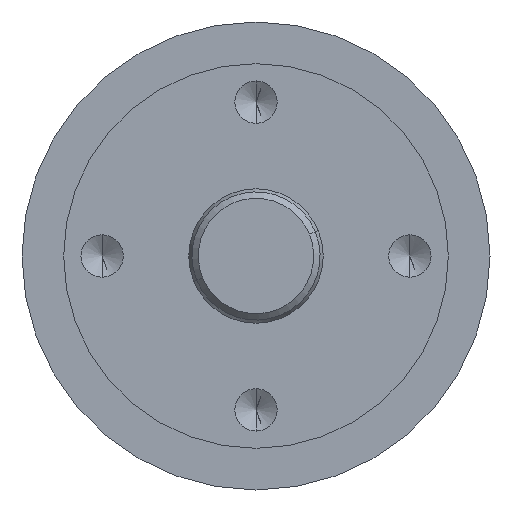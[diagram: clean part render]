
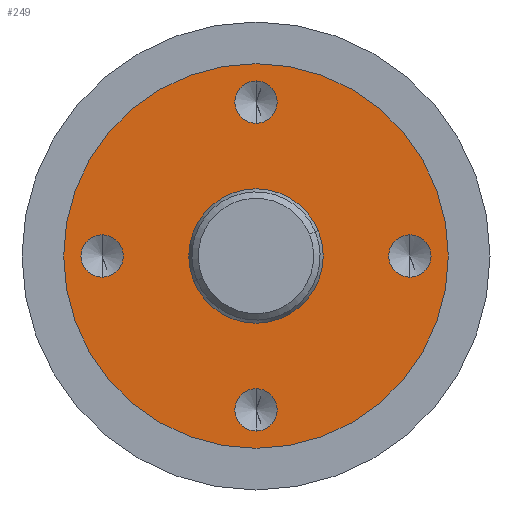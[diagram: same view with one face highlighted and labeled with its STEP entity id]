
A CAD part, left-side view. The second image highlights one B-rep face of the part: STEP entity #249.
In plain terms, the highlighted planar face has unit normal (-1, 0, 0).
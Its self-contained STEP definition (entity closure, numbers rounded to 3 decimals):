
#16 = EDGE_CURVE ( 'NONE', #17, #24, #596, .T. ) ;
#17 = VERTEX_POINT ( 'NONE', #590 ) ;
#24 = VERTEX_POINT ( 'NONE', #783 ) ;
#31 = VERTEX_POINT ( 'NONE', #744 ) ;
#34 = EDGE_CURVE ( 'NONE', #31, #35, #743, .T. ) ;
#35 = VERTEX_POINT ( 'NONE', #738 ) ;
#66 = VERTEX_POINT ( 'NONE', #712 ) ;
#78 = VERTEX_POINT ( 'NONE', #963 ) ;
#81 = EDGE_CURVE ( 'NONE', #110, #78, #830, .T. ) ;
#89 = EDGE_CURVE ( 'NONE', #92, #93, #933, .T. ) ;
#92 = VERTEX_POINT ( 'NONE', #925 ) ;
#93 = VERTEX_POINT ( 'NONE', #924 ) ;
#98 = VERTEX_POINT ( 'NONE', #874 ) ;
#99 = VERTEX_POINT ( 'NONE', #873 ) ;
#105 = EDGE_CURVE ( 'NONE', #66, #106, #870, .T. ) ;
#106 = VERTEX_POINT ( 'NONE', #819 ) ;
#110 = VERTEX_POINT ( 'NONE', #813 ) ;
#120 = EDGE_CURVE ( 'NONE', #99, #98, #860, .T. ) ;
#173 = EDGE_CURVE ( 'NONE', #98, #99, #1051, .T. ) ;
#174 = ORIENTED_EDGE ( 'NONE', *, *, #81, .F. ) ;
#175 = ORIENTED_EDGE ( 'NONE', *, *, #259, .F. ) ;
#176 = EDGE_LOOP ( 'NONE', ( #380, #381 ) ) ;
#249 = ADVANCED_FACE ( 'NONE', ( #1200, #1199, #1198, #1197, #1196, #1195 ), #1181, .F. ) ;
#250 = ORIENTED_EDGE ( 'NONE', *, *, #251, .F. ) ;
#251 = EDGE_CURVE ( 'NONE', #106, #66, #1301, .T. ) ;
#252 = ORIENTED_EDGE ( 'NONE', *, *, #105, .F. ) ;
#253 = EDGE_LOOP ( 'NONE', ( #298, #174 ) ) ;
#258 = EDGE_LOOP ( 'NONE', ( #250, #252 ) ) ;
#259 = EDGE_CURVE ( 'NONE', #93, #92, #1295, .T. ) ;
#281 = ORIENTED_EDGE ( 'NONE', *, *, #173, .F. ) ;
#282 = EDGE_LOOP ( 'NONE', ( #374, #376 ) ) ;
#283 = EDGE_LOOP ( 'NONE', ( #281, #372 ) ) ;
#298 = ORIENTED_EDGE ( 'NONE', *, *, #299, .F. ) ;
#299 = EDGE_CURVE ( 'NONE', #78, #110, #1441, .T. ) ;
#372 = ORIENTED_EDGE ( 'NONE', *, *, #120, .F. ) ;
#373 = EDGE_CURVE ( 'NONE', #35, #31, #1636, .T. ) ;
#374 = ORIENTED_EDGE ( 'NONE', *, *, #373, .F. ) ;
#375 = ORIENTED_EDGE ( 'NONE', *, *, #89, .F. ) ;
#376 = ORIENTED_EDGE ( 'NONE', *, *, #34, .F. ) ;
#377 = EDGE_LOOP ( 'NONE', ( #375, #175 ) ) ;
#378 = EDGE_CURVE ( 'NONE', #24, #17, #1630, .T. ) ;
#380 = ORIENTED_EDGE ( 'NONE', *, *, #16, .T. ) ;
#381 = ORIENTED_EDGE ( 'NONE', *, *, #378, .T. ) ;
#590 = CARTESIAN_POINT ( 'NONE',  ( -19.95, 0., 15. ) ) ;
#591 = DIRECTION ( 'NONE',  ( 0., 0., 1. ) ) ;
#592 = DIRECTION ( 'NONE',  ( -1., 0., 0. ) ) ;
#593 = CARTESIAN_POINT ( 'NONE',  ( -19.95, 0., 0. ) ) ;
#594 = AXIS2_PLACEMENT_3D ( 'NONE', #593, #592, #591 ) ;
#596 = CIRCLE ( 'NONE', #594, 15. ) ;
#712 = CARTESIAN_POINT ( 'NONE',  ( -19.95, 12., -1.65 ) ) ;
#738 = CARTESIAN_POINT ( 'NONE',  ( -19.95, 0., 13.65 ) ) ;
#739 = DIRECTION ( 'NONE',  ( 0., 0., 1. ) ) ;
#740 = DIRECTION ( 'NONE',  ( -1., 0., 0. ) ) ;
#741 = CARTESIAN_POINT ( 'NONE',  ( -19.95, 0., 12. ) ) ;
#742 = AXIS2_PLACEMENT_3D ( 'NONE', #741, #740, #739 ) ;
#743 = CIRCLE ( 'NONE', #742, 1.65 ) ;
#744 = CARTESIAN_POINT ( 'NONE',  ( -19.95, 0., 10.35 ) ) ;
#783 = CARTESIAN_POINT ( 'NONE',  ( -19.95, 0., -15. ) ) ;
#813 = CARTESIAN_POINT ( 'NONE',  ( -19.95, 0., -13.65 ) ) ;
#819 = CARTESIAN_POINT ( 'NONE',  ( -19.95, 12., 1.65 ) ) ;
#820 = DIRECTION ( 'NONE',  ( 0., 0., 1. ) ) ;
#821 = DIRECTION ( 'NONE',  ( -1., 0., 0. ) ) ;
#822 = CARTESIAN_POINT ( 'NONE',  ( -19.95, 12., 0. ) ) ;
#830 = CIRCLE ( 'NONE', #890, 1.65 ) ;
#860 = CIRCLE ( 'NONE', #921, 1.65 ) ;
#869 = AXIS2_PLACEMENT_3D ( 'NONE', #822, #821, #820 ) ;
#870 = CIRCLE ( 'NONE', #869, 1.65 ) ;
#873 = CARTESIAN_POINT ( 'NONE',  ( -19.95, -12., -1.65 ) ) ;
#874 = CARTESIAN_POINT ( 'NONE',  ( -19.95, -12., 1.65 ) ) ;
#887 = DIRECTION ( 'NONE',  ( 0., 0., 1. ) ) ;
#888 = DIRECTION ( 'NONE',  ( -1., 0., 0. ) ) ;
#889 = CARTESIAN_POINT ( 'NONE',  ( -19.95, 0., -12. ) ) ;
#890 = AXIS2_PLACEMENT_3D ( 'NONE', #889, #888, #887 ) ;
#918 = DIRECTION ( 'NONE',  ( 0., 0., 1. ) ) ;
#919 = DIRECTION ( 'NONE',  ( -1., 0., 0. ) ) ;
#920 = CARTESIAN_POINT ( 'NONE',  ( -19.95, -12., 0. ) ) ;
#921 = AXIS2_PLACEMENT_3D ( 'NONE', #920, #919, #918 ) ;
#924 = CARTESIAN_POINT ( 'NONE',  ( -19.95, 0., 5.24 ) ) ;
#925 = CARTESIAN_POINT ( 'NONE',  ( -19.95, 0., -5.24 ) ) ;
#929 = DIRECTION ( 'NONE',  ( 0., 0., 1. ) ) ;
#930 = DIRECTION ( 'NONE',  ( -1., 0., 0. ) ) ;
#931 = CARTESIAN_POINT ( 'NONE',  ( -19.95, 0., 0. ) ) ;
#932 = AXIS2_PLACEMENT_3D ( 'NONE', #931, #930, #929 ) ;
#933 = CIRCLE ( 'NONE', #932, 5.24 ) ;
#963 = CARTESIAN_POINT ( 'NONE',  ( -19.95, 0., -10.35 ) ) ;
#1047 = DIRECTION ( 'NONE',  ( 0., 0., 1. ) ) ;
#1048 = DIRECTION ( 'NONE',  ( -1., 0., 0. ) ) ;
#1049 = CARTESIAN_POINT ( 'NONE',  ( -19.95, -12., 0. ) ) ;
#1050 = AXIS2_PLACEMENT_3D ( 'NONE', #1049, #1048, #1047 ) ;
#1051 = CIRCLE ( 'NONE', #1050, 1.65 ) ;
#1179 = CARTESIAN_POINT ( 'NONE',  ( -19.95, 5.24, 0. ) ) ;
#1180 = AXIS2_PLACEMENT_3D ( 'NONE', #1179, #1303, #1302 ) ;
#1181 = PLANE ( 'NONE',  #1180 ) ;
#1195 = FACE_OUTER_BOUND ( 'NONE', #176, .T. ) ;
#1196 = FACE_BOUND ( 'NONE', #377, .T. ) ;
#1197 = FACE_BOUND ( 'NONE', #282, .T. ) ;
#1198 = FACE_BOUND ( 'NONE', #283, .T. ) ;
#1199 = FACE_BOUND ( 'NONE', #253, .T. ) ;
#1200 = FACE_BOUND ( 'NONE', #258, .T. ) ;
#1291 = DIRECTION ( 'NONE',  ( 0., 0., 1. ) ) ;
#1292 = DIRECTION ( 'NONE',  ( -1., 0., 0. ) ) ;
#1293 = CARTESIAN_POINT ( 'NONE',  ( -19.95, 0., 0. ) ) ;
#1294 = AXIS2_PLACEMENT_3D ( 'NONE', #1293, #1292, #1291 ) ;
#1295 = CIRCLE ( 'NONE', #1294, 5.24 ) ;
#1297 = DIRECTION ( 'NONE',  ( 0., 0., 1. ) ) ;
#1298 = DIRECTION ( 'NONE',  ( -1., 0., 0. ) ) ;
#1299 = CARTESIAN_POINT ( 'NONE',  ( -19.95, 12., 0. ) ) ;
#1300 = AXIS2_PLACEMENT_3D ( 'NONE', #1299, #1298, #1297 ) ;
#1301 = CIRCLE ( 'NONE', #1300, 1.65 ) ;
#1302 = DIRECTION ( 'NONE',  ( 0., 0., -1. ) ) ;
#1303 = DIRECTION ( 'NONE',  ( 1., 0., 0. ) ) ;
#1438 = DIRECTION ( 'NONE',  ( 0., 0., 1. ) ) ;
#1439 = DIRECTION ( 'NONE',  ( -1., 0., 0. ) ) ;
#1440 = AXIS2_PLACEMENT_3D ( 'NONE', #1446, #1439, #1438 ) ;
#1441 = CIRCLE ( 'NONE', #1440, 1.65 ) ;
#1446 = CARTESIAN_POINT ( 'NONE',  ( -19.95, 0., -12. ) ) ;
#1630 = CIRCLE ( 'NONE', #1681, 15. ) ;
#1632 = DIRECTION ( 'NONE',  ( 0., 0., 1. ) ) ;
#1633 = DIRECTION ( 'NONE',  ( -1., 0., 0. ) ) ;
#1634 = CARTESIAN_POINT ( 'NONE',  ( -19.95, 0., 12. ) ) ;
#1635 = AXIS2_PLACEMENT_3D ( 'NONE', #1634, #1633, #1632 ) ;
#1636 = CIRCLE ( 'NONE', #1635, 1.65 ) ;
#1637 = CARTESIAN_POINT ( 'NONE',  ( -19.95, 0., 0. ) ) ;
#1679 = DIRECTION ( 'NONE',  ( 0., 0., 1. ) ) ;
#1680 = DIRECTION ( 'NONE',  ( -1., 0., 0. ) ) ;
#1681 = AXIS2_PLACEMENT_3D ( 'NONE', #1637, #1680, #1679 ) ;
